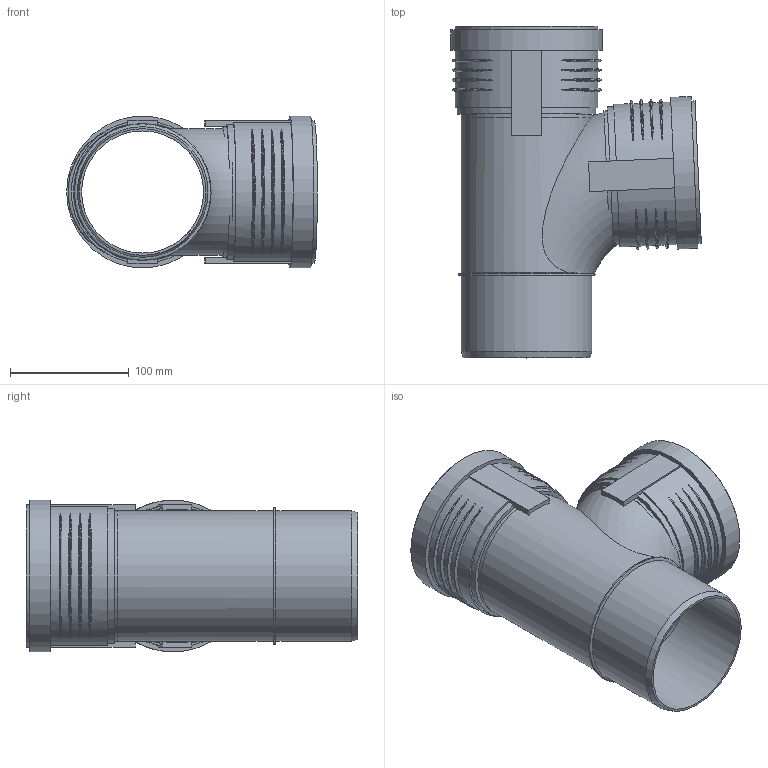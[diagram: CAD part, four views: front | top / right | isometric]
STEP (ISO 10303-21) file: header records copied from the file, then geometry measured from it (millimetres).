
FILE_DESCRIPTION(/* description */ (''),/* implementation_level */ '2;1');
FILE_NAME(/* name */ 'Z:\Geberit\Export\NewStep\390555.stp',/* time_stamp */ '2014-04-02T08:14:39+02:00',/* author */ ('ML'),/* organization */ (''),/* preprocessor_version */ 'ST-DEVELOPER v15.2',/* originating_system */ 'Autodesk Inventor 2014',/* authorisation */ '');
FILE_SCHEMA (('AUTOMOTIVE_DESIGN { 1 0 10303 214 3 1 1 }'));
Length unit declared in the file: millimetre
Products named in the file (3): 861363; 861404; 390555
Bounding box: 211.45 x 279.9 x 128.1 mm (x, y, z)
Volume: 511447.6 mm3; surface area: 296777.9 mm2
Topology: 3 solids, 3 shells, 131 faces, 314 edges, 215 vertices
Faces by surface type: torus 53, plane 44, cylinder 31, cone 3
Full cylindrical faces by diameter (mm): 103 x2, 103.2 x2, 110.2 x5, 113.3 x4, 120.3 x2, 121.1 x2, 128.1 x2
Entity records: 3138 total; most frequent: CARTESIAN_POINT 1386, DIRECTION 322, ORIENTED_EDGE 310, EDGE_CURVE 155, AXIS2_PLACEMENT_3D 143, VERTEX_POINT 115, EDGE_LOOP 114, STYLED_ITEM 78
